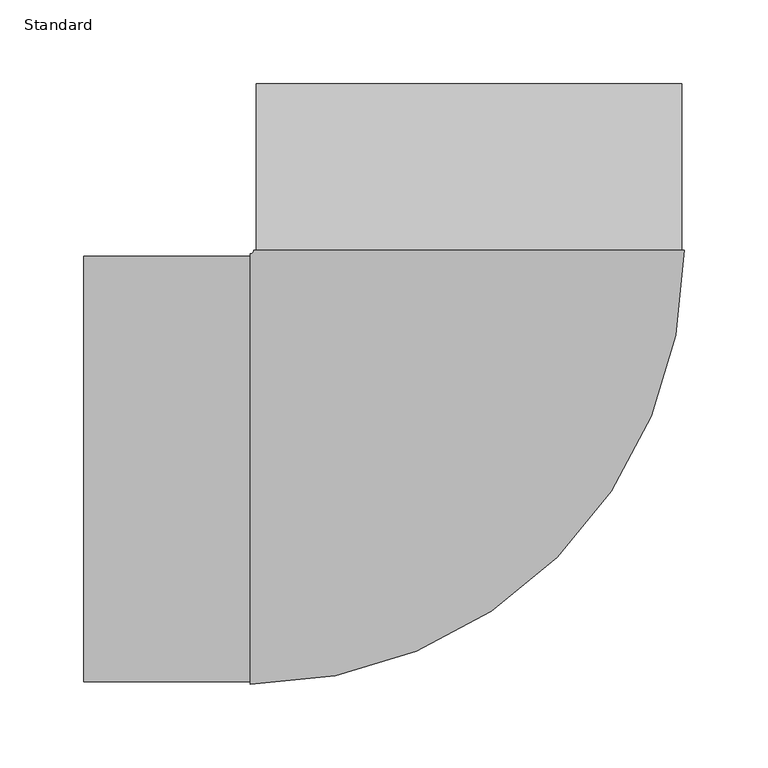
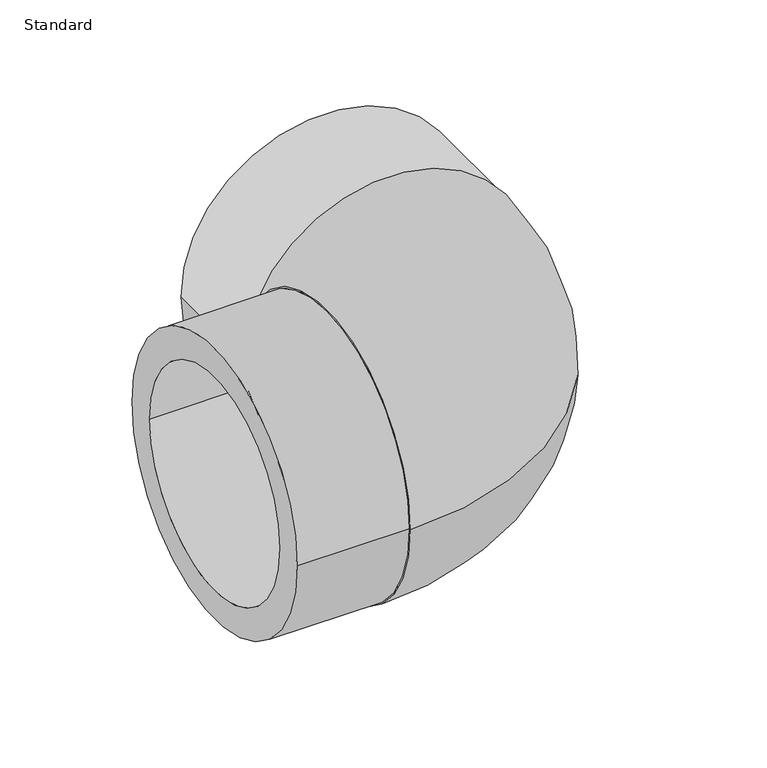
"""IFC4 building model written with IfcOpenShell, lengths in millimetres: pipe fitting geometry, EGB_VASEN_ PPR_Codo a tope 90 WXRB200_Codo a tope 45 WXRB220 : Standard."""

from ifc_helpers import new_model, si_unit, point, frame, origin, place, context, project, spatial, polyline, circle_curve, ellipse_curve, trimmed, source, transform, mapped, element, save
from ifc_brep_helpers import plane_surface, cylinder_surface, revolved_surface, advanced_brep


def standard_4cfa28bd(model_context):
    return source(origin(), model_context, "Body", "AdvancedBrep", [
        advanced_brep(
        [(-230.0, -127.0, 0.0), (-230.0, 127.0, 0.0), (-230.0, -100.0, 0.0), (-230.0, 100.0, 0.0), (-130.5, -127.0, 0.0), (-130.5, 127.0, 0.0), (-130.5, -100.0, 0.0), (-130.5, 100.0, 0.0), (-130.5, -128.5, 0.0), (-130.5, 128.5, 0.0), (128.5, 130.5, 0.0), (-128.5, 130.5, 0.0), (127.0, 130.5, 0.0), (-127.0, 130.5, 0.0), (100.0, 130.5, 0.0), (-100.0, 130.5, 0.0), (127.0, 230.0, 0.0), (-127.0, 230.0, 0.0), (100.0, 230.0, 0.0), (-100.0, 230.0, 0.0)],
        [
            (0, 1, circle_curve(frame((-230.0, 0.0, 0.0), z_axis=(-1.0, 0.0, 0.0), x_axis=(0.0, 1.0, 0.0)), 127.0)),
            (1, 0, circle_curve(frame((-230.0, 0.0, 0.0), z_axis=(-1.0, 0.0, 0.0), x_axis=(0.0, 1.0, 0.0)), 127.0)),
            (2, 3, circle_curve(frame((-230.0, 0.0, 0.0), z_axis=(1.0, 0.0, 0.0), x_axis=(0.0, 1.0, 0.0)), 100.0)),
            (3, 2, circle_curve(frame((-230.0, 0.0, 0.0), z_axis=(1.0, 0.0, 0.0), x_axis=(0.0, 1.0, 0.0)), 100.0)),
            (0, 4),
            (4, 5, circle_curve(frame((-130.5, 0.0, 0.0), z_axis=(-1.0, 0.0, 0.0), x_axis=(0.0, 1.0, 0.0)), 127.0)),
            (5, 1),
            (5, 4, circle_curve(frame((-130.5, 0.0, 0.0), z_axis=(-1.0, 0.0, 0.0), x_axis=(0.0, 1.0, 0.0)), 127.0)),
            (2, 6),
            (6, 7, circle_curve(frame((-130.5, 0.0, 0.0), z_axis=(1.0, 0.0, 0.0), x_axis=(0.0, 1.0, 0.0)), 100.0)),
            (7, 3),
            (7, 6, circle_curve(frame((-130.5, 0.0, 0.0), z_axis=(1.0, 0.0, 0.0), x_axis=(0.0, 1.0, 0.0)), 100.0)),
            (8, 9, circle_curve(frame((-130.5, 0.0, 0.0), z_axis=(-1.0, 0.0, 0.0), x_axis=(0.0, 1.0, 0.0)), 128.5)),
            (9, 8, circle_curve(frame((-130.5, 0.0, 0.0), z_axis=(-1.0, 0.0, 0.0), x_axis=(0.0, 1.0, 0.0)), 128.5)),
            (10, 11, circle_curve(frame((0.0, 130.5, 0.0), z_axis=(0.0, 1.0, 0.0), x_axis=(-1.0, 0.0, 0.0)), 128.5)),
            (11, 10, circle_curve(frame((0.0, 130.5, 0.0), z_axis=(0.0, 1.0, 0.0), x_axis=(-1.0, 0.0, 0.0)), 128.5)),
            (12, 13, circle_curve(frame((0.0, 130.5, 0.0), z_axis=(0.0, -1.0, 0.0), x_axis=(-1.0, 0.0, 0.0)), 127.0)),
            (13, 12, circle_curve(frame((0.0, 130.5, 0.0), z_axis=(0.0, -1.0, 0.0), x_axis=(-1.0, 0.0, 0.0)), 127.0)),
            (14, 15, circle_curve(frame((0.0, 130.5, 0.0), z_axis=(0.0, 1.0, 0.0), x_axis=(-1.0, 0.0, 0.0)), 100.0)),
            (15, 14, circle_curve(frame((0.0, 130.5, 0.0), z_axis=(0.0, 1.0, 0.0), x_axis=(-1.0, 0.0, 0.0)), 100.0)),
            (8, 10, circle_curve(frame((-130.5, 130.5, 0.0), z_axis=(0.0, 0.0, 1.0), x_axis=(0.0, -1.0, 0.0)), 259.0)),
            (11, 9, circle_curve(frame((-130.5, 130.5, 0.0), z_axis=(0.0, 0.0, -1.0), x_axis=(0.0, -1.0, 0.0)), 2.0)),
            (16, 17, circle_curve(frame((0.0, 230.0, 0.0), z_axis=(0.0, 1.0, 0.0), x_axis=(-1.0, 0.0, 0.0)), 127.0)),
            (17, 16, circle_curve(frame((0.0, 230.0, 0.0), z_axis=(0.0, 1.0, 0.0), x_axis=(-1.0, 0.0, 0.0)), 127.0)),
            (18, 19, circle_curve(frame((0.0, 230.0, 0.0), z_axis=(0.0, -1.0, 0.0), x_axis=(-1.0, 0.0, 0.0)), 100.0)),
            (19, 18, circle_curve(frame((0.0, 230.0, 0.0), z_axis=(0.0, -1.0, 0.0), x_axis=(-1.0, 0.0, 0.0)), 100.0)),
            (17, 13),
            (12, 16),
            (19, 15),
            (14, 18),
        ],
        [
            plane_surface(frame((-230.0, 0.0, 0.0), z_axis=(-1.0, 0.0, 0.0), x_axis=(0.0, 0.0, 1.0))),
            cylinder_surface(frame((-230.0, 0.0, 0.0), z_axis=(-1.0, 0.0, 0.0), x_axis=(0.0, 1.0, 0.0)), 127.0),
            revolved_surface(polyline([(-130.5, 100.0, 0.0), (-230.0, 100.0, 0.0)]), (-230.0, 0.0, 0.0), (1.0, 0.0, 0.0)),
            plane_surface(frame((-130.5, 0.0, 0.0), z_axis=(-1.0, 0.0, 0.0), x_axis=(0.0, 0.0, 1.0))),
            plane_surface(frame((0.0, 130.5, 0.0), z_axis=(0.0, 1.0, 0.0), x_axis=(0.0, 0.0, 1.0))),
            revolved_surface(trimmed(ellipse_curve(frame((-130.5, 0.0, 0.0), z_axis=(-1.0, 0.0, 0.0), x_axis=(0.0, 1.0, 0.0)), 128.5, 128.5), [point((-130.5, -128.5, 0.0))], [point((-130.5, 128.5, 0.0))], True, "CARTESIAN"), (-130.5, 130.5, 0.0), (0.0, 0.0, 1.0)),
            revolved_surface(trimmed(ellipse_curve(frame((-130.5, 0.0, 0.0), z_axis=(-1.0, 0.0, 0.0), x_axis=(0.0, 1.0, 0.0)), 128.5, 128.5), [point((-130.5, 128.5, 0.0))], [point((-130.5, -128.5, 0.0))], True, "CARTESIAN"), (-130.5, 130.5, 0.0), (0.0, 0.0, 1.0)),
            plane_surface(frame((0.0, 230.0, 0.0), z_axis=(0.0, 1.0, 0.0), x_axis=(0.0, 0.0, 1.0))),
            cylinder_surface(frame((0.0, 130.5, 0.0), z_axis=(0.0, -1.0, 0.0), x_axis=(-1.0, 0.0, 0.0)), 127.0),
            revolved_surface(polyline([(-100.0, 230.0, 0.0), (-100.0, 130.5, 0.0)]), (0.0, 130.5, 0.0), (0.0, 1.0, 0.0)),
        ],
        [
            (0, [[1, 2], [3, 4]]),
            (1, [[-1, 5, 6, 7]]),
            (1, [[-2, -7, 8, -5]]),
            (2, [[-3, 9, 10, 11]]),
            (2, [[-4, -11, 12, -9]]),
            (3, [[-10, -12]]),
            (3, [[13, 14], [-6, -8]]),
            (4, [[15, 16], [17, 18]]),
            (4, [[19, 20]]),
            (5, [[-13, 21, -16, 22]]),
            (6, [[-14, -22, -15, -21]]),
            (7, [[23, 24], [25, 26]]),
            (8, [[-24, 27, -17, 28]]),
            (8, [[-23, -28, -18, -27]]),
            (9, [[-26, 29, -19, 30]]),
            (9, [[-25, -30, -20, -29]]),
        ],
    ),
    ])


if __name__ == "__main__":
    model = new_model("IFC4")
    model_context = context("Model", 3, world=origin())
    ifc_project = project(units=[si_unit("LENGTHUNIT", "METRE", prefix="MILLI")], contexts=[model_context])
    site = spatial("IfcSite", under=ifc_project)
    building = spatial("IfcBuilding", under=site)
    placement = place(None, origin())
    standard_shape = standard_4cfa28bd(model_context)
    element("IfcPipeFitting", 1, ObjectType="EGB_VASEN_ PPR_Codo a tope 90 WXRB200_Codo a tope 45 WXRB220 : Standard", at=placement, inside=building, context=model_context, shape_type="MappedRepresentation", body=[
        mapped(standard_shape, transform((0.0, 0.0, 0.0), x_axis=(1.0, 0.0, 0.0), y_axis=(0.0, 1.0, 0.0), z_axis=(0.0, 0.0, 1.0))),
    ])
    save(model, "model.ifc")
